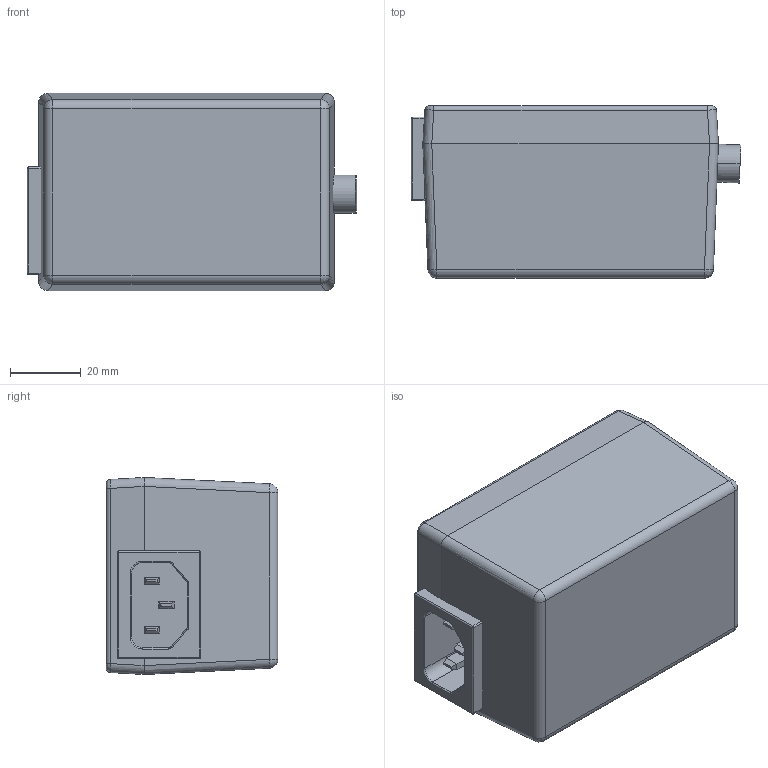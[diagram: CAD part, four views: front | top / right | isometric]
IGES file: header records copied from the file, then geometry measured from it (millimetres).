
Start section:  PTC IGES file: cu_power_supply_ps2.igs
Global section: file name: cu_power_supply_ps2.igs; native system: Pro/ENGINEER by Parametric Technology Corporation; preprocessor: 2006080; author: jpearson; organization: Unknown; date: 070817.104440; units: inch
Bounding box: 93.47 x 48.77 x 55.88 mm (x, y, z)
Surface area: 23669.8 mm2 (no closed solid volume)
Topology: 0 solids, 0 shells, 106 faces, 470 edges, 469 vertices
Faces by surface type: bspline 54, revolution 52
